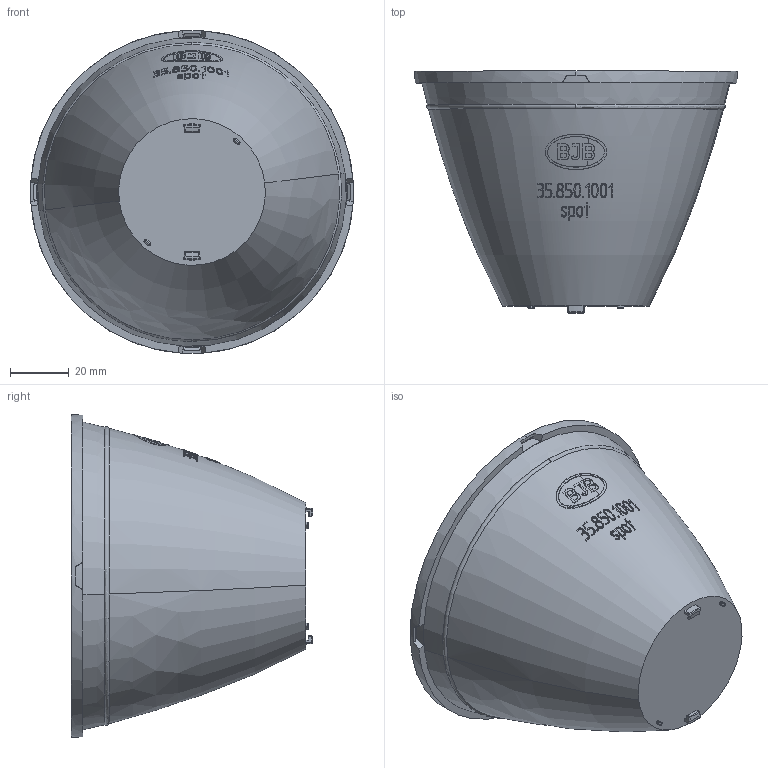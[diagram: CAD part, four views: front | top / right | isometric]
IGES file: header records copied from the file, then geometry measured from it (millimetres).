
Global section: file name: C:\CoreTechnologie\3D-In/022-J00-09.igs; native system: CT CoreTechnologie 3D Evolution; preprocessor: 2006; date: 1191118.145414; units: millimetre
Bounding box: 110 x 82.35 x 110 mm (x, y, z)
Volume: 446933.4 mm3; surface area: 34568.2 mm2
Topology: 1 solids, 1 shells, 270 faces, 671 edges, 430 vertices
Faces by surface type: plane 115, revolution 104, bspline 51
